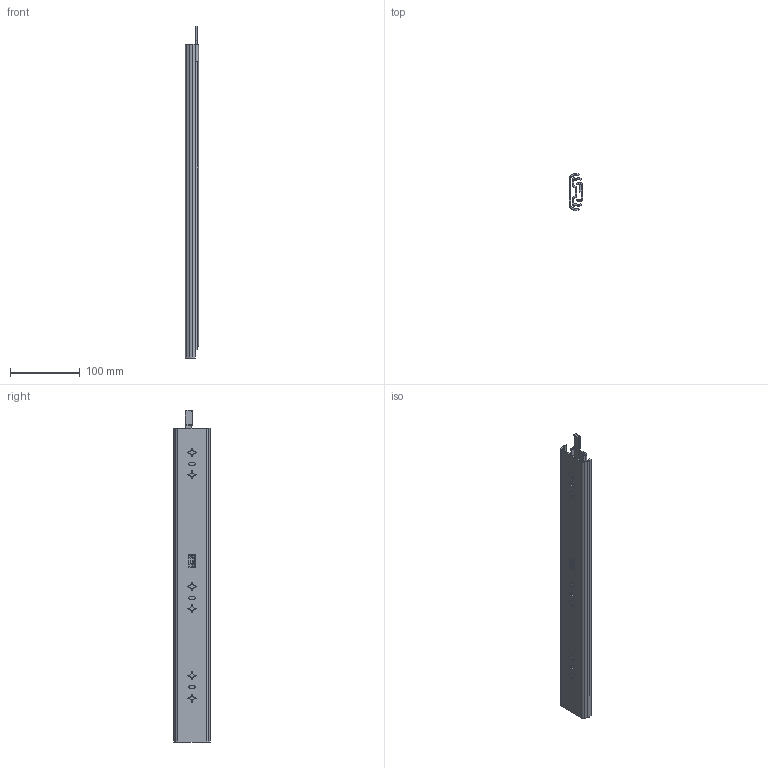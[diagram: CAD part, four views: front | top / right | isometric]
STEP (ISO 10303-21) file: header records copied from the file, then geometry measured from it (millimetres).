
FILE_DESCRIPTION (( 'STEP AP214' ), '1' );
FILE_NAME ('DSCHMD450MML-CLOSED.STEP', '2018-11-27T07:48:20', ( '' ), ( '' ), 'SwSTEP 2.0', 'SolidWorks 2017', '' );
FILE_SCHEMA (( 'AUTOMOTIVE_DESIGN' ));
Length unit declared in the file: millimetre
Products named in the file (5): DSCHMDL-1_450; DSCHMDL-2_450; DSCHMDL-3_450; DSCHMDL-4; DSCHMD450MML-CLOSED
Assembly tree (4 placements, depth 2):
  DSCHMD450MML-CLOSED
    DSCHMDL-3_450
    DSCHMDL-2_450
    DSCHMDL-1_450
    DSCHMDL-4
Bounding box: 18.7 x 53 x 476.1 mm (x, y, z)
Volume: 149550.3 mm3; surface area: 156736.1 mm2
Topology: 4 solids, 4 shells, 994 faces, 2744 edges, 1820 vertices
Faces by surface type: plane 540, bspline 237, cylinder 165, cone 44, torus 4, sphere 4
Entity records: 33700 total; most frequent: CARTESIAN_POINT 9254, ORIENTED_EDGE 5480, DIRECTION 4086, EDGE_CURVE 2740, VERTEX_POINT 1820, VECTOR 1798, LINE 1798, AXIS2_PLACEMENT_3D 1144
